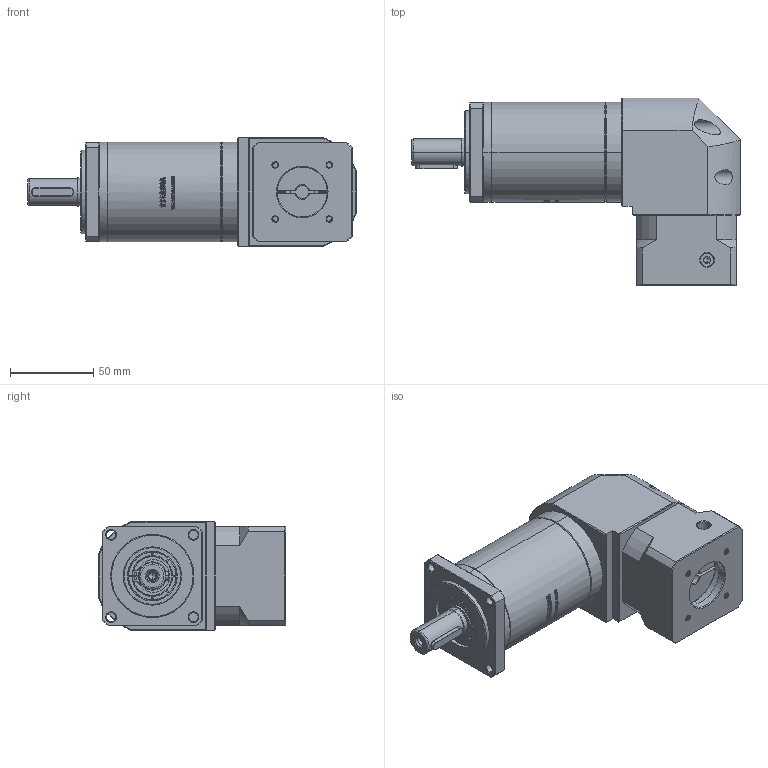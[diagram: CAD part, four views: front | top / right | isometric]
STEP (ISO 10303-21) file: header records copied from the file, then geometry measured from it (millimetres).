
FILE_DESCRIPTION (( 'STEP AP214' ), '1' );
FILE_NAME ('ZFR60-D16-L3-8-30-46-M4.STEP', '2022-04-20T08:07:11', ( '' ), ( 'Microsoft' ), 'SwSTEP 2.0', 'SolidWorks 2016', '' );
FILE_SCHEMA (( 'AUTOMOTIVE_DESIGN' ));
Length unit declared in the file: millimetre
Products named in the file (1): ZFR60-D16-L3-8-30-46-M4
Bounding box: 197.5 x 112.7 x 65 mm (x, y, z)
Volume: 644693.9 mm3; surface area: 87168.4 mm2
Topology: 5 solids, 6 shells, 2736 faces, 7480 edges, 4886 vertices
Faces by surface type: plane 1395, bspline 643, cylinder 386, cone 288, torus 24
Entity records: 170511 total; most frequent: CARTESIAN_POINT 77176, ORIENTED_EDGE 14932, DIRECTION 10504, EDGE_CURVE 7466, VERTEX_POINT 4886, LINE 4378, VECTOR 4378, AXIS2_PLACEMENT_3D 3063
